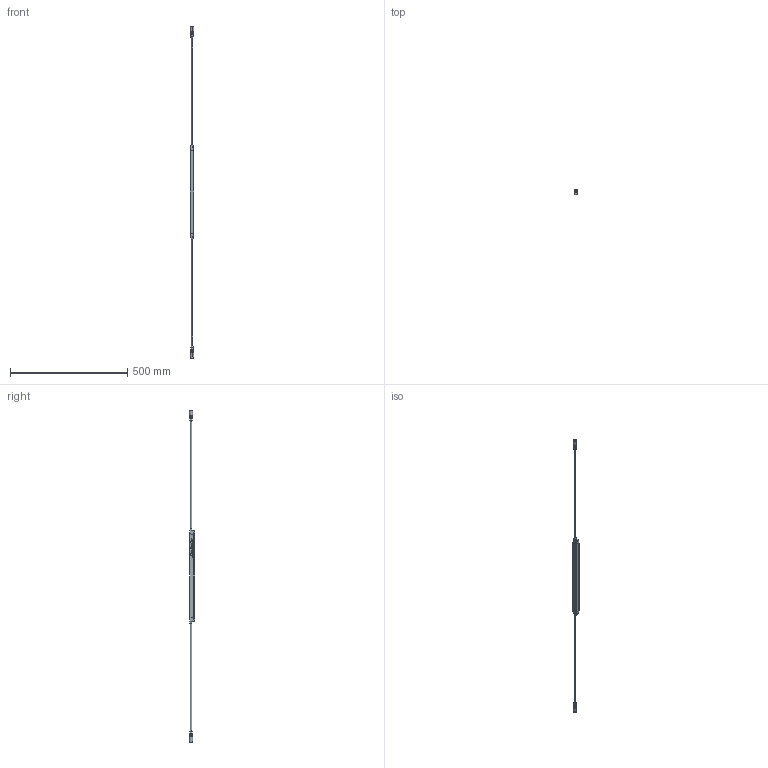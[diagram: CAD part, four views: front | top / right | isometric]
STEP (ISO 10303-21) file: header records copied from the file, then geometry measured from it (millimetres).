
FILE_DESCRIPTION (( 'STEP AP214' ), '1' );
FILE_NAME ('Rockwell Automation-$PARTNUMBER.STEP', '2015-07-08T18:24:56', ( 'Windows User' ), ( '' ), 'SwSTEP 2.0', 'SolidWorks 2015', '' );
FILE_SCHEMA (( 'AUTOMOTIVE_DESIGN' ));
Length unit declared in the file: millimetre
Products named in the file (3): Rockwell Automation-$PARTNUMBER_Rockwell Automation-445L-C4E0350FP_Guardshield Micro 400 connectingcable_female; Rockwell Automation-$PARTNUMBER_Rockwell Automation-445L-C4E0350FP_Guardshield Micro 400 Profile 15x20_350mm; Rockwell Automation-$PARTNUMBER
Assembly tree (3 placements, depth 2):
  Rockwell Automation-$PARTNUMBER
    Rockwell Automation-$PARTNUMBER_Rockwell Automation-445L-C4E0350FP_Guardshield Micro 400 Profile 15x20_350mm
    Rockwell Automation-$PARTNUMBER_Rockwell Automation-445L-C4E0350FP_Guardshield Micro 400 connectingcable_female  x2
Bounding box: 15.5 x 24.21 x 1417.17 mm (x, y, z)
Volume: 121761.9 mm3; surface area: 79907 mm2
Topology: 3 solids, 5 shells, 510 faces, 1270 edges, 832 vertices
Faces by surface type: plane 314, bspline 112, cylinder 44, cone 32, torus 8
Entity records: 20387 total; most frequent: CARTESIAN_POINT 8546, ORIENTED_EDGE 2164, DIRECTION 1588, EDGE_CURVE 1082, VECTOR 764, LINE 764, VERTEX_POINT 714, EDGE_LOOP 478
